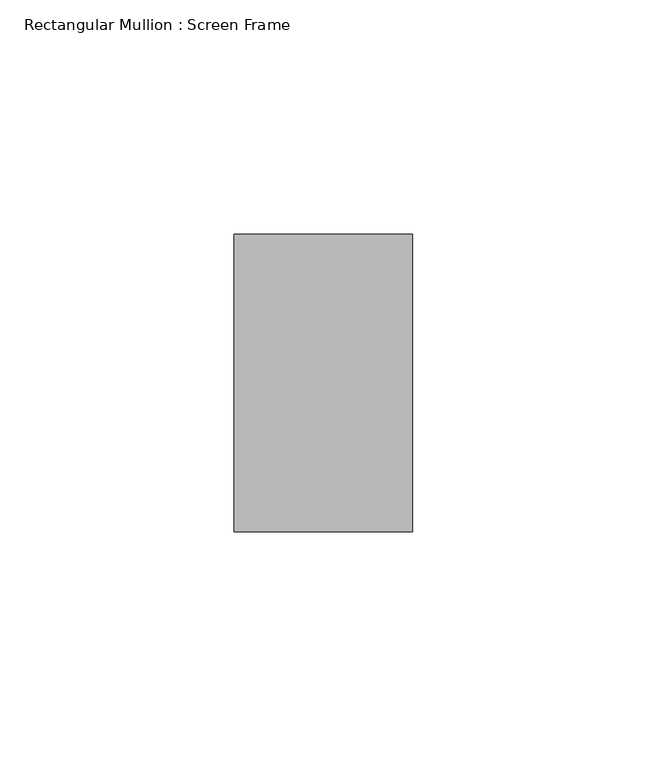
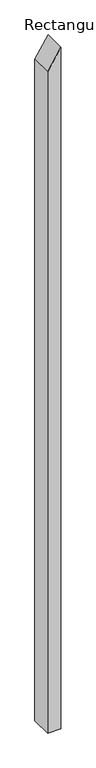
"""IFC4 building model written with IfcOpenShell, lengths in millimetres: member geometry, Rectangular Mullion : Screen Frame."""

from ifc_helpers import new_model, si_unit, frame, origin, place, context, project, spatial, polyline, outline, extrude, source, transform, mapped, element, save


def rectangular_mullion_screen_frame_013a71e0(model_context):
    return source(origin(), model_context, "Body", "SweptSolid", [
        extrude(outline(polyline([(0.0, 0.0), (-62.106626, -38.1), (-2093.8077001, -38.1), (-2093.8077001, 0.0), (0.0, 0.0)])), frame((0.0, -31.75, 0.0), z_axis=(0.0, 1.0, 0.0), x_axis=(0.0, 0.0, 1.0)), (0.0, 0.0, 1.0), 63.5),
    ])


if __name__ == "__main__":
    model = new_model("IFC4")
    model_context = context("Model", 3, world=origin())
    ifc_project = project(units=[si_unit("LENGTHUNIT", "METRE", prefix="MILLI")], contexts=[model_context])
    site = spatial("IfcSite", under=ifc_project)
    building = spatial("IfcBuilding", under=site)
    placement = place(None, origin())
    rectangular_mullion_screen_frame_shape = rectangular_mullion_screen_frame_013a71e0(model_context)
    element("IfcMember", 1, ObjectType="Rectangular Mullion : Screen Frame", at=placement, inside=building, context=model_context, shape_type="MappedRepresentation", body=[
        mapped(rectangular_mullion_screen_frame_shape, transform((0.0, 0.0, 0.0), x_axis=(1.0, 0.0, 0.0), y_axis=(0.0, 1.0, 0.0), z_axis=(0.0, 0.0, 1.0))),
    ])
    save(model, "model.ifc")
